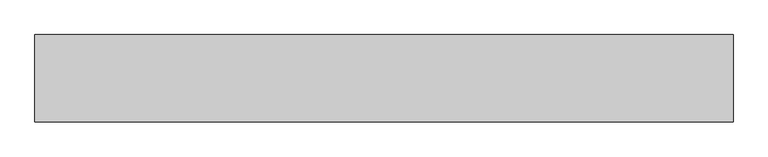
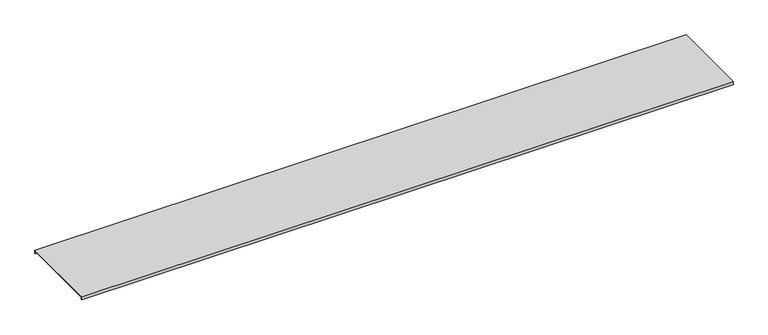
"""IFC4 building model written with IfcOpenShell, lengths in millimetres: cable carrier fitting geometry, ССT_Hyperline_FBTR-CVR-2000 Крышка для оптического лотка : Крышка для оптического лотка."""

from ifc_helpers import new_model, si_unit, frame, origin, place, context, project, spatial, polyline, outline, extrude, source, transform, mapped, element, save


def cable_carrier_fitting_3fc549e6(model_context):
    return source(origin(), model_context, "Body", "SweptSolid", [
        extrude(outline(polyline([(120.0, 50.0), (-120.0, 50.0), (-120.0, 43.0), (-122.54, 43.0), (-122.54, 52.54), (122.54, 52.54), (122.54, 43.0), (120.0, 43.0), (120.0, 50.0)])), frame((-1780.0, 0.0, 0.0), z_axis=(1.0, 0.0, 0.0), x_axis=(0.0, 1.0, 0.0)), (0.0, 0.0, 1.0), 1960.0),
    ])


if __name__ == "__main__":
    model = new_model("IFC4")
    model_context = context("Model", 3, world=origin())
    ifc_project = project(units=[si_unit("LENGTHUNIT", "METRE", prefix="MILLI")], contexts=[model_context])
    site = spatial("IfcSite", under=ifc_project)
    building = spatial("IfcBuilding", under=site)
    placement = place(None, origin())
    cable_carrier_fitting_shape = cable_carrier_fitting_3fc549e6(model_context)
    element("IfcCableCarrierFitting", 1, ObjectType="ССT_Hyperline_FBTR-CVR-2000 Крышка для оптического лотка : Крышка для оптического лотка", at=placement, inside=building, context=model_context, shape_type="MappedRepresentation", body=[
        mapped(cable_carrier_fitting_shape, transform((0.0, 0.0, 0.0), x_axis=(1.0, 0.0, 0.0), y_axis=(0.0, 1.0, 0.0), z_axis=(0.0, 0.0, 1.0))),
    ])
    save(model, "model.ifc")
